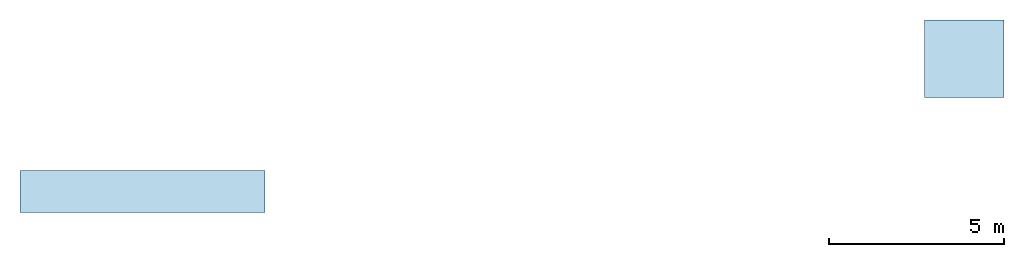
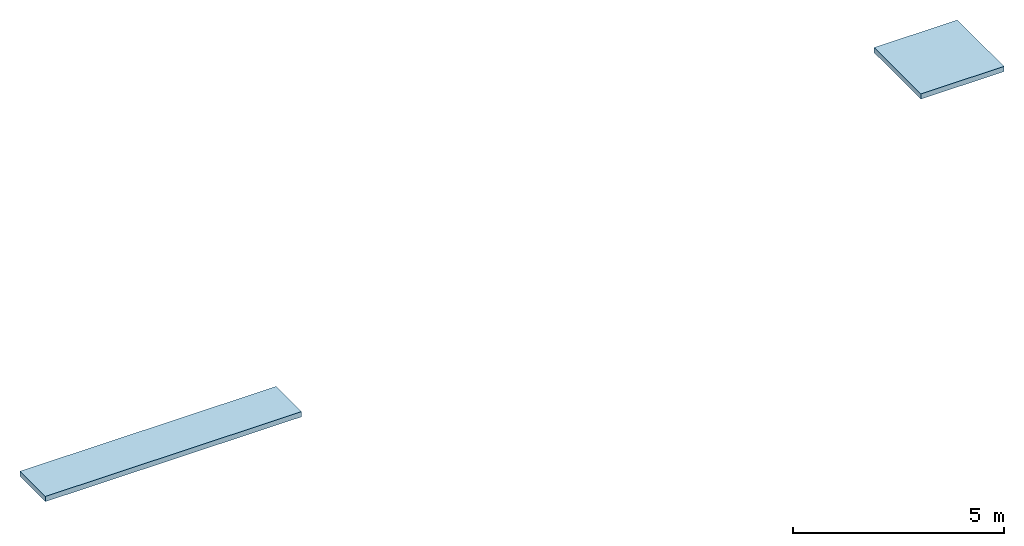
# One storey: 2 slabs.
"""IFC4 building model written with IfcOpenShell, lengths in centimetres."""

from ifc_helpers import new_model, si_unit, derived_unit, frame, origin_with_axes, place, context, project, spatial, polyline, outline, extrude, material, element, save


model = new_model("IFC4")

# Units and contexts
model_context = context("Model", 3, precision=1e-05, world=origin_with_axes(), identifier="Body")
ifc_project = project(units=[si_unit("LENGTHUNIT", "METRE", prefix="CENTI"), si_unit("VOLUMEUNIT", "CUBIC_METRE"), si_unit("AREAUNIT", "SQUARE_METRE"), si_unit("POWERUNIT", "WATT"), si_unit("LUMINOUSFLUXUNIT", "LUMEN"), si_unit("ELECTRICCURRENTUNIT", "AMPERE"), si_unit("PRESSUREUNIT", "PASCAL", prefix="KILO"), si_unit("MASSUNIT", "GRAM", prefix="KILO"), si_unit("PLANEANGLEUNIT", "RADIAN"), derived_unit("VOLUMETRICFLOWRATEUNIT", [(si_unit("LENGTHUNIT", "METRE"), 3), (si_unit("TIMEUNIT", "SECOND"), -1)])], contexts=[model_context])

# Site, building, storey
site_placement = place(None, origin_with_axes())
site = spatial("IfcSite", under=ifc_project, at=site_placement)
building_placement = place(site_placement, frame((0.0, 0.0, -295.0)))
building = spatial("IfcBuilding", under=site, at=building_placement)
placement = place(building_placement, origin_with_axes())
storey_placement = place(placement, frame((0.0, 0.0, 101.0), z_axis=(0.0, 0.0, 1.0), x_axis=(1.0, 0.0, 0.0)))
storey = spatial("IfcBuildingStorey", under=building, at=storey_placement, Name="FUNDO CISTERNA", CompositionType="ELEMENT", Elevation=-194.0)

# Slabs
ifc_material = material(Name="Concreto")
slab_1_placement = place(storey_placement, frame((1543.7495, -7089.225, 0.0), z_axis=(0.0, 0.0, 1.0), x_axis=(1.0, 0.0, 0.0)))
element("IfcSlab", 1, at=slab_1_placement, inside=storey, material=ifc_material, Name="L2", PredefinedType="FLOOR", context=model_context, shape_type="SolidModel", body=[
    extrude(outline(polyline([(349.849, 60.085), (-349.85, 60.084), (-349.849, -60.084), (349.849, -60.085), (349.849, 60.085), (349.849, 60.085)])), frame((0.0005, 0.0, -15.0), z_axis=(0.0, 0.0, 1.0), x_axis=(1.0, 0.0, 0.0)), (0.0, 0.0, 1.0), 15.0),
])
slab_2_placement = place(storey_placement, frame((3888.24, -6710.8005, 60.0), z_axis=(0.0, 0.0, 1.0), x_axis=(1.0, 0.0, 0.0)))
element("IfcSlab", 2, at=slab_2_placement, inside=storey, material=ifc_material, Name="L3", PredefinedType="FLOOR", context=model_context, shape_type="SolidModel", body=[
    extrude(outline(polyline([(113.51, 110.489), (-113.509, 110.489), (-113.51, -110.49), (113.509, -110.49), (113.51, 110.489), (113.51, 110.489)])), frame((0.0, 0.0005, -15.0), z_axis=(0.0, 0.0, 1.0), x_axis=(1.0, 0.0, 0.0)), (0.0, 0.0, 1.0), 15.0),
])

save(model, "model.ifc")
